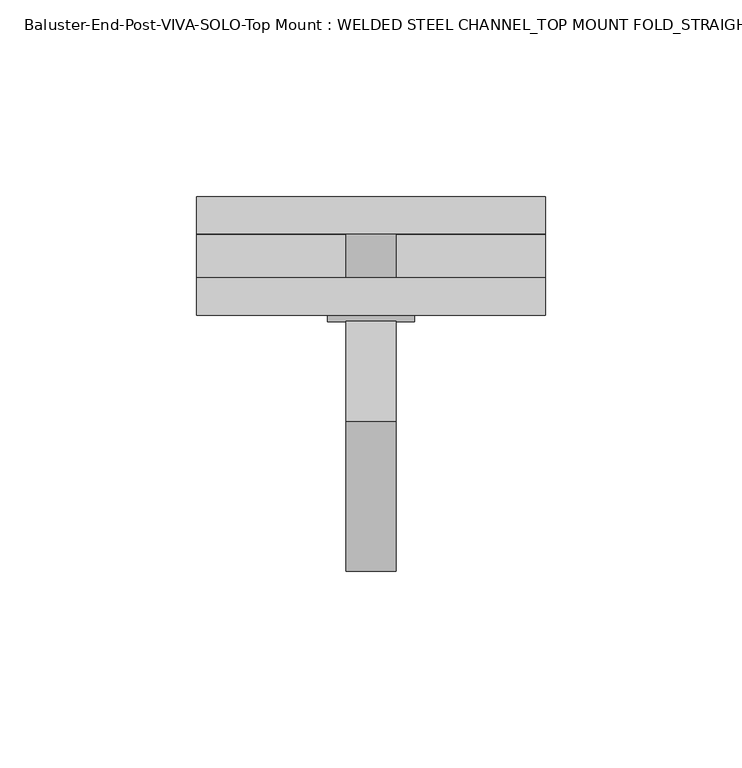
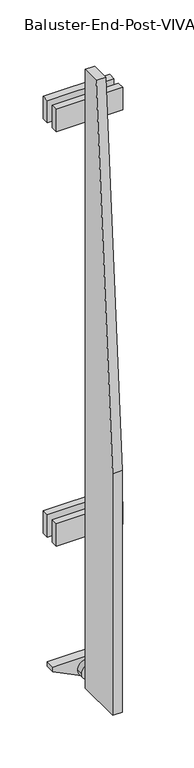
"""IFC4 building model written with IfcOpenShell, lengths in millimetres: proxy geometry, Baluster-End-Post-VIVA-SOLO-Top Mount : WELDED STEEL CHANNEL_TOP MOUNT FOLD_STRAIGHT."""

from ifc_helpers import new_model, si_unit, point, frame, frame_2d, origin, place, context, project, spatial, polyline, circle_curve, trimmed, segment, composite_curve, outline, extrude, source, transform, mapped, element, save


def baluster_end_post_viva_solo_top_mount_welded_steel_channel_cdb94760(model_context):
    return source(origin(), model_context, "Body", "SweptSolid", [
        extrude(outline(polyline([(-52.1175389, 914.8205071), (-52.1175389, 39.165025), (-115.6175389, 39.165025), (-115.6175389, 381.4205071), (-77.5175389, 914.8205071), (-52.1175389, 914.8205071)])), frame((-6.35, 0.0, 0.0), z_axis=(1.0, 0.0, 0.0), x_axis=(0.0, 1.0, 0.0)), (0.0, 0.0, 1.0), 12.7),
        extrude(outline(composite_curve([segment(trimmed(circle_curve(frame_2d((268.5208758, 0.0)), 6.35), [point((268.5208758, 6.35))], [point((268.5208758, -6.35))], False, "CARTESIAN"), True, "CONTINUOUS"), segment(trimmed(circle_curve(frame_2d((268.5208758, 0.0)), 6.35), [point((268.5208758, -6.35))], [point((268.5208758, 6.35))], False, "CARTESIAN"), True, "CONTINUOUS")], self_intersect=False)), frame((0.0, -42.5925389, 0.0), z_axis=(0.0, 1.0, 0.0), x_axis=(0.0, 0.0, 1.0)), (0.0, 0.0, 1.0), 12.7),
        extrude(outline(composite_curve([segment(trimmed(circle_curve(frame_2d((854.776764, 0.0)), 6.35), [point((854.776764, 6.35))], [point((854.776764, -6.35))], False, "CARTESIAN"), True, "CONTINUOUS"), segment(trimmed(circle_curve(frame_2d((854.776764, 0.0)), 6.35), [point((854.776764, -6.35))], [point((854.776764, 6.35))], False, "CARTESIAN"), True, "CONTINUOUS")], self_intersect=False)), frame((0.0, -42.5925389, 0.0), z_axis=(0.0, 1.0, 0.0), x_axis=(0.0, 0.0, 1.0)), (0.0, 0.0, 1.0), 12.7),
        extrude(outline(composite_curve([segment(trimmed(circle_curve(frame_2d((60.8777263, 0.0)), 11.1125), [point((60.8777263, 11.1125))], [point((60.8777263, -11.1125))], False, "CARTESIAN"), True, "CONTINUOUS"), segment(trimmed(circle_curve(frame_2d((60.8777263, 0.0)), 11.1125), [point((60.8777263, -11.1125))], [point((60.8777263, 11.1125))], False, "CARTESIAN"), True, "CONTINUOUS")], self_intersect=False)), frame((0.0, -52.1175389, 0.0), z_axis=(0.0, 1.0, 0.0), x_axis=(0.0, 0.0, 1.0)), (0.0, 0.0, 1.0), 25.4),
        extrude(outline(polyline([(-44.45, -20.3675389), (44.45, -20.3675389), (44.45, -29.8925389), (-44.45, -29.8925389), (-44.45, -20.3675389)])), frame((0.0, 0.0, 838.7824344), z_axis=(0.0, 0.0, 1.0), x_axis=(1.0, 0.0, 0.0)), (0.0, 0.0, 1.0), 31.75),
        extrude(outline(polyline([(-44.45, -20.3675389), (44.45, -20.3675389), (44.45, -29.8925389), (-44.45, -29.8925389), (-44.45, -20.3675389)])), frame((0.0, 0.0, 252.4484609), z_axis=(0.0, 0.0, 1.0), x_axis=(1.0, 0.0, 0.0)), (0.0, 0.0, 1.0), 31.75),
        extrude(outline(polyline([(70.3302675, 44.45), (76.6802675, 44.45), (76.6802675, -44.45), (70.3302675, -44.45), (48.4156188, 0.0), (70.3302675, 44.45)])), frame((0.0, -42.5925389, 0.0), z_axis=(0.0, 1.0, 0.0), x_axis=(0.0, 0.0, 1.0)), (0.0, 0.0, 1.0), 12.7),
        extrude(outline(polyline([(-44.45, -40.984781), (44.45, -40.984781), (44.45, -50.509781), (-44.45, -50.509781), (-44.45, -40.984781)])), frame((0.0, 0.0, 838.7824344), z_axis=(0.0, 0.0, 1.0), x_axis=(1.0, 0.0, 0.0)), (0.0, 0.0, 1.0), 31.75),
        extrude(outline(polyline([(-44.45, -40.984781), (44.45, -40.984781), (44.45, -50.509781), (-44.45, -50.509781), (-44.45, -40.984781)])), frame((0.0, 0.0, 252.4484609), z_axis=(0.0, 0.0, 1.0), x_axis=(1.0, 0.0, 0.0)), (0.0, 0.0, 1.0), 31.75),
    ])


if __name__ == "__main__":
    model = new_model("IFC4")
    model_context = context("Model", 3, world=origin())
    ifc_project = project(units=[si_unit("LENGTHUNIT", "METRE", prefix="MILLI")], contexts=[model_context])
    site = spatial("IfcSite", under=ifc_project)
    building = spatial("IfcBuilding", under=site)
    placement = place(None, origin())
    baluster_end_post_viva_solo_top_mount_welded_steel_channel_shape = baluster_end_post_viva_solo_top_mount_welded_steel_channel_cdb94760(model_context)
    element("IfcBuildingElementProxy", 1, Name="Baluster-End-Post-VIVA-SOLO-Top Mount : WELDED STEEL CHANNEL_TOP MOUNT FOLD_STRAIGHT", ObjectType="Baluster-End-Post-VIVA-SOLO-Top Mount : WELDED STEEL CHANNEL_TOP MOUNT FOLD_STRAIGHT", at=placement, inside=building, context=model_context, shape_type="MappedRepresentation", body=[
        mapped(baluster_end_post_viva_solo_top_mount_welded_steel_channel_shape, transform((0.0, 0.0, 0.0), x_axis=(1.0, 0.0, 0.0), y_axis=(0.0, 1.0, 0.0), z_axis=(0.0, 0.0, 1.0))),
    ])
    save(model, "model.ifc")
